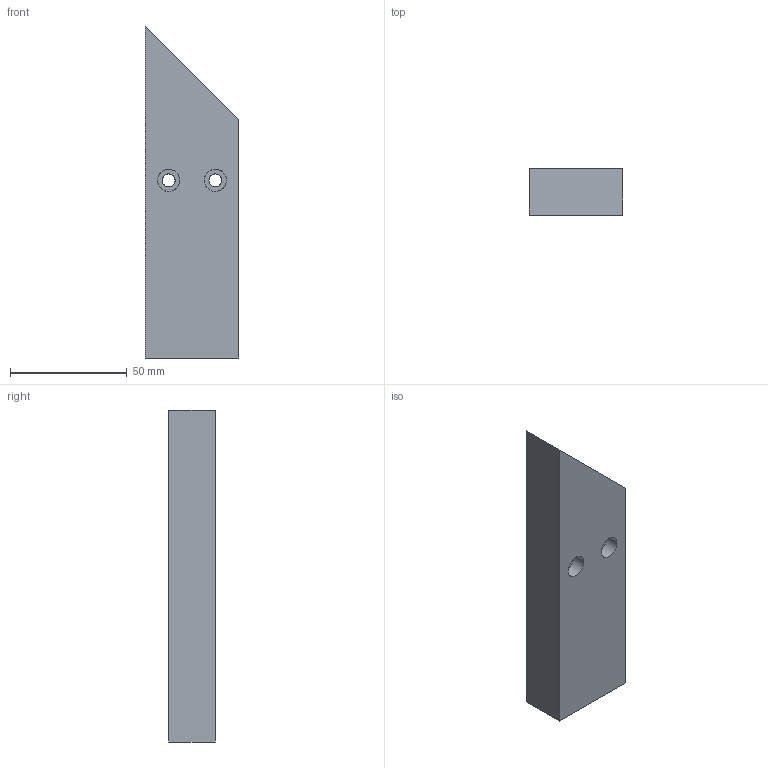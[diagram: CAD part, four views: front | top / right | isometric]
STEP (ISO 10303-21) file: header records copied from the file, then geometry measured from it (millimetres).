
FILE_DESCRIPTION(/* description */ (''),/* implementation_level */ '2;1');
FILE_NAME(/* name */ 'X-4596~1',/* time_stamp */ '2014-02-14T19:44:29+01:00',/* author */ (''),/* organization */ (''),/* preprocessor_version */ 'ST-DEVELOPER v14',/* originating_system */ '',/* authorisation */ '');
FILE_SCHEMA (('AUTOMOTIVE_DESIGN'));
Length unit declared in the file: millimetre
Products named in the file (1): Document
Bounding box: 40 x 20 x 142 mm (x, y, z)
Volume: 96082.3 mm3; surface area: 17318.3 mm2
Topology: 1 solids, 1 shells, 16 faces, 36 edges, 24 vertices
Faces by surface type: plane 8, bspline 8
Entity records: 1198 total; most frequent: CARTESIAN_POINT 688, B_SPLINE_CURVE_WITH_KNOTS 80, ORIENTED_EDGE 72, PCURVE 72, DEFINITIONAL_REPRESENTATION 72, SURFACE_CURVE 36, EDGE_CURVE 36, VERTEX_POINT 24
